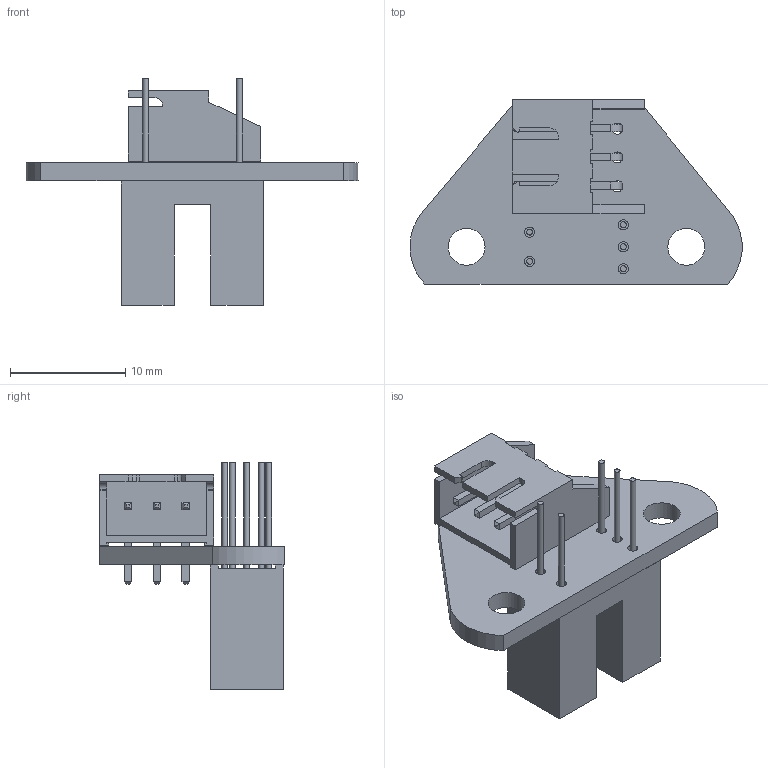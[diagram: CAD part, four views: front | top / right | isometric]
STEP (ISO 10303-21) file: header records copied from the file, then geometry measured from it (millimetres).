
FILE_DESCRIPTION(/* description */ (''),/* implementation_level */ '2;1');
FILE_NAME(/* name */ '/Users/jgs286/Dropbox/Documents/Personal/Projects/3D_printing/Voron/Reference/SSC/Twist/Photosensor/Tap_Photosensor_PCB/Tap_Photosensor_PCB v3 v2.step',/* time_stamp */ '2022-07-09T13:34:57-04:00',/* author */ (''),/* organization */ (''),/* preprocessor_version */ 'ST-DEVELOPER v19',/* originating_system */ 'Autodesk Translation Framework v11.7.0.108',/* authorisation */ '');
FILE_SCHEMA (('AUTOMOTIVE_DESIGN { 1 0 10303 214 3 1 1 }'));
Length unit declared in the file: millimetre
Products named in the file (4): Tap_Photosensor_PCB v3; Tap_Photosensor_PCB PCB; OPB970; S3B-XH-A
Assembly tree (3 placements, depth 2):
  Tap_Photosensor_PCB v3
    Tap_Photosensor_PCB PCB
    OPB970
    S3B-XH-A
Bounding box: 28.8 x 16 x 19.69 mm (x, y, z)
Volume: 1381 mm3; surface area: 2275.1 mm2
Topology: 11 solids, 11 shells, 171 faces, 421 edges, 272 vertices
Faces by surface type: plane 142, cylinder 29
Full cylindrical faces by diameter (mm): 0.5 x5, 0.87 x5, 0.95 x3, 3.2 x2
Entity records: 5161 total; most frequent: CARTESIAN_POINT 871, ORIENTED_EDGE 842, DIRECTION 835, EDGE_CURVE 421, LINE 363, VECTOR 363, VERTEX_POINT 272, AXIS2_PLACEMENT_3D 236
